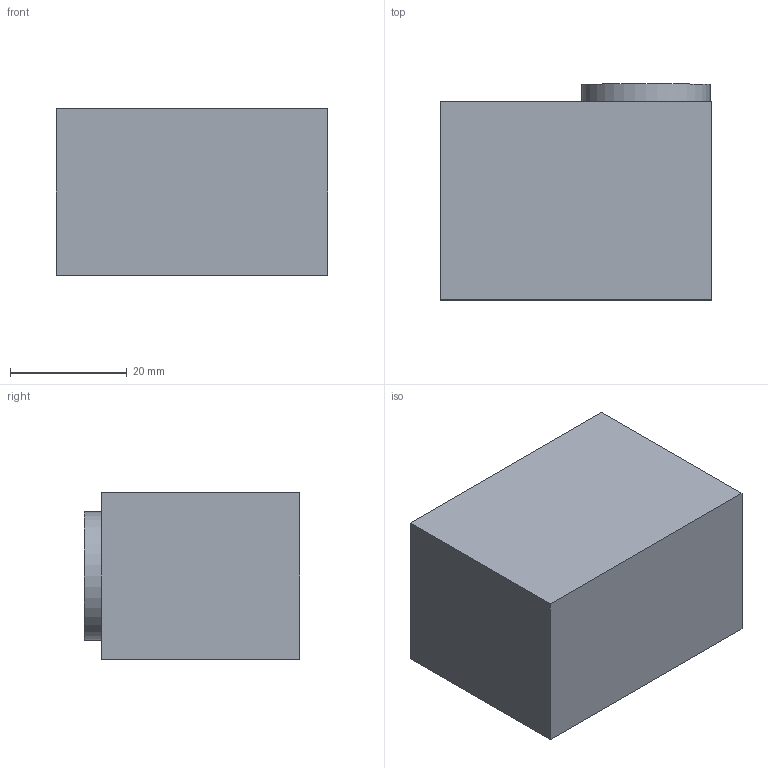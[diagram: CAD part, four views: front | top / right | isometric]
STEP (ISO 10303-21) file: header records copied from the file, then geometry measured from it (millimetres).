
FILE_DESCRIPTION(('Open CASCADE Model'),'2;1');
FILE_NAME('Open CASCADE Shape Model','2026-10-10T15:34:58',('Author'),( 'Open CASCADE'),'Open CASCADE STEP processor 7.9','Open CASCADE 7.9' ,'Unknown');
FILE_SCHEMA(('AUTOMOTIVE_DESIGN { 1 0 10303 214 1 1 1 1 }'));
Length unit declared in the file: millimetre
Products named in the file (1): Open CASCADE STEP translator 7.9 31
Bounding box: 46.5 x 37 x 28.5 mm (x, y, z)
Volume: 46198.9 mm3; surface area: 7957.8 mm2
Topology: 1 solids, 1 shells, 8 faces, 15 edges, 10 vertices
Faces by surface type: plane 7, cylinder 1
Full cylindrical faces by diameter (mm): 22 x1
Entity records: 406 total; most frequent: DIRECTION 65, CARTESIAN_POINT 64, LINE 41, VECTOR 41, ORIENTED_EDGE 30, PCURVE 30, DEFINITIONAL_REPRESENTATION 30, EDGE_CURVE 15
